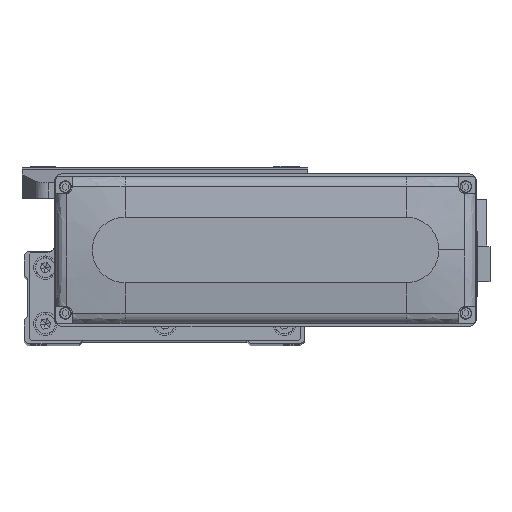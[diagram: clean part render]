
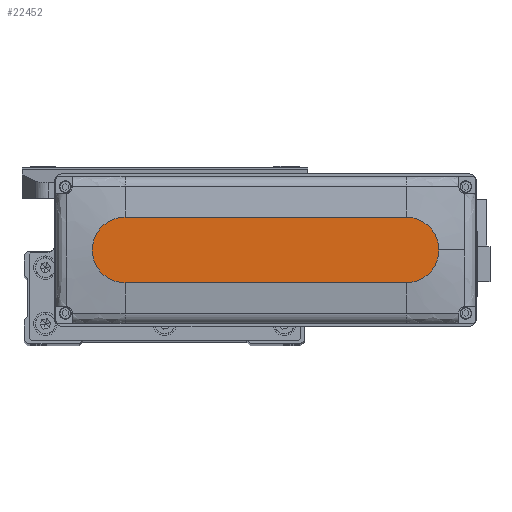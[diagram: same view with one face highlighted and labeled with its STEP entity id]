
A CAD part, top view. The second image highlights one B-rep face of the part: STEP entity #22452.
In plain terms, the highlighted planar face has unit normal (0, 0, 1).
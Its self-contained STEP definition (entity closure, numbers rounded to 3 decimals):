
#381 = DIRECTION ( 'NONE',  ( -1., 0., 0. ) ) ;
#481 = DIRECTION ( 'NONE',  ( 0., 0., 1. ) ) ;
#1115 = VERTEX_POINT ( 'NONE', #11277 ) ;
#1772 = ORIENTED_EDGE ( 'NONE', *, *, #31449, .T. ) ;
#2809 = CIRCLE ( 'NONE', #27505, 14. ) ;
#2836 = ORIENTED_EDGE ( 'NONE', *, *, #36742, .T. ) ;
#3147 = DIRECTION ( 'NONE',  ( 0., 0., 1. ) ) ;
#3160 = CIRCLE ( 'NONE', #27852, 14. ) ;
#3784 = FACE_OUTER_BOUND ( 'NONE', #10657, .T. ) ;
#5038 = VERTEX_POINT ( 'NONE', #32436 ) ;
#5265 = DIRECTION ( 'NONE',  ( 1., 0., 0. ) ) ;
#7702 = DIRECTION ( 'NONE',  ( 1., 0., 0. ) ) ;
#8840 = DIRECTION ( 'NONE',  ( 1., 0., 0. ) ) ;
#9945 = EDGE_CURVE ( 'NONE', #1115, #40381, #25633, .T. ) ;
#9963 = AXIS2_PLACEMENT_3D ( 'NONE', #24514, #38014, #7702 ) ;
#10657 = EDGE_LOOP ( 'NONE', ( #22136, #2836, #33486, #1772, #40386 ) ) ;
#11262 = CARTESIAN_POINT ( 'NONE',  ( 60., -14., 28.5 ) ) ;
#11277 = CARTESIAN_POINT ( 'NONE',  ( -60., -14., 28.5 ) ) ;
#12852 = AXIS2_PLACEMENT_3D ( 'NONE', #30750, #481, #13930 ) ;
#13930 = DIRECTION ( 'NONE',  ( 1., 0., 0. ) ) ;
#16623 = DIRECTION ( 'NONE',  ( 1., 0., 0. ) ) ;
#17154 = LINE ( 'NONE', #30641, #37041 ) ;
#17263 = PLANE ( 'NONE',  #12852 ) ;
#21191 = VERTEX_POINT ( 'NONE', #28811 ) ;
#22056 = CARTESIAN_POINT ( 'NONE',  ( 60., 0., 28.5 ) ) ;
#22136 = ORIENTED_EDGE ( 'NONE', *, *, #41111, .T. ) ;
#22452 = ADVANCED_FACE ( 'NONE', ( #3784 ), #17263, .T. ) ;
#24514 = CARTESIAN_POINT ( 'NONE',  ( -60., 0., 28.5 ) ) ;
#25633 = LINE ( 'NONE', #39156, #32602 ) ;
#27505 = AXIS2_PLACEMENT_3D ( 'NONE', #33441, #3147, #16623 ) ;
#27852 = AXIS2_PLACEMENT_3D ( 'NONE', #22056, #35570, #5265 ) ;
#28811 = CARTESIAN_POINT ( 'NONE',  ( -60., 14., 28.5 ) ) ;
#29022 = CIRCLE ( 'NONE', #9963, 14. ) ;
#29720 = VERTEX_POINT ( 'NONE', #40052 ) ;
#30641 = CARTESIAN_POINT ( 'NONE',  ( -60., 14., 28.5 ) ) ;
#30750 = CARTESIAN_POINT ( 'NONE',  ( 0., 0., 28.5 ) ) ;
#31449 = EDGE_CURVE ( 'NONE', #40381, #29720, #2809, .T. ) ;
#32436 = CARTESIAN_POINT ( 'NONE',  ( 60., 14., 28.5 ) ) ;
#32602 = VECTOR ( 'NONE', #8840, 1000. ) ;
#33441 = CARTESIAN_POINT ( 'NONE',  ( 60., 0., 28.5 ) ) ;
#33486 = ORIENTED_EDGE ( 'NONE', *, *, #9945, .T. ) ;
#35570 = DIRECTION ( 'NONE',  ( 0., 0., 1. ) ) ;
#36742 = EDGE_CURVE ( 'NONE', #21191, #1115, #29022, .T. ) ;
#37041 = VECTOR ( 'NONE', #381, 1000. ) ;
#38014 = DIRECTION ( 'NONE',  ( 0., 0., 1. ) ) ;
#39156 = CARTESIAN_POINT ( 'NONE',  ( -60., -14., 28.5 ) ) ;
#40052 = CARTESIAN_POINT ( 'NONE',  ( 74., 0., 28.5 ) ) ;
#40381 = VERTEX_POINT ( 'NONE', #11262 ) ;
#40386 = ORIENTED_EDGE ( 'NONE', *, *, #42108, .T. ) ;
#41111 = EDGE_CURVE ( 'NONE', #5038, #21191, #17154, .T. ) ;
#42108 = EDGE_CURVE ( 'NONE', #29720, #5038, #3160, .T. ) ;
